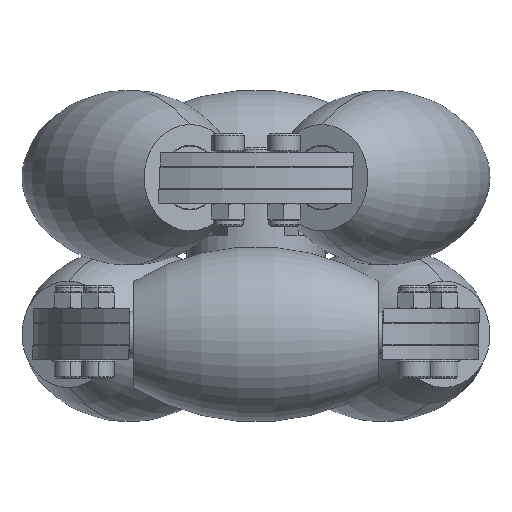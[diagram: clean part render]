
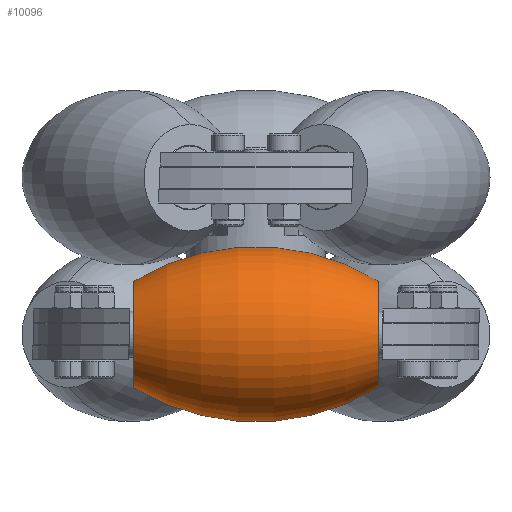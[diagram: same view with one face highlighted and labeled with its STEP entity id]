
A CAD part, front view. The second image highlights one B-rep face of the part: STEP entity #10096.
In plain terms, the highlighted toroidal (fillet/blend) face has major radius 31.8 mm and minor radius 50.8 mm.
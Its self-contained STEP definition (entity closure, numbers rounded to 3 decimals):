
#121 = CARTESIAN_POINT ( 'NONE',  ( 0., 31.8, 31.8 ) ) ;
#392 = EDGE_CURVE ( 'NONE', #1077, #3327, #11267, .T. ) ;
#723 = CARTESIAN_POINT ( 'NONE',  ( -26.5, 31.8, 0. ) ) ;
#753 = CARTESIAN_POINT ( 'NONE',  ( 26.5, 31.8, -11.54 ) ) ;
#768 = DIRECTION ( 'NONE',  ( 0., 0., 1. ) ) ;
#1077 = VERTEX_POINT ( 'NONE', #5080 ) ;
#1138 = VERTEX_POINT ( 'NONE', #10298 ) ;
#1663 = FACE_OUTER_BOUND ( 'NONE', #10145, .T. ) ;
#1835 = DIRECTION ( 'NONE',  ( -1., 0., 0. ) ) ;
#2138 = CIRCLE ( 'NONE', #10680, 11.54 ) ;
#2489 = AXIS2_PLACEMENT_3D ( 'NONE', #8834, #1835, #4534 ) ;
#2894 = DIRECTION ( 'NONE',  ( 0., 1., 0. ) ) ;
#3118 = EDGE_CURVE ( 'NONE', #9316, #1138, #6701, .T. ) ;
#3327 = VERTEX_POINT ( 'NONE', #6475 ) ;
#3622 = DIRECTION ( 'NONE',  ( 0., 0., -1. ) ) ;
#3773 = EDGE_CURVE ( 'NONE', #3327, #1138, #2138, .T. ) ;
#4080 = CARTESIAN_POINT ( 'NONE',  ( 26.5, 31.8, 0. ) ) ;
#4121 = DIRECTION ( 'NONE',  ( 0., 0., 1. ) ) ;
#4237 = CARTESIAN_POINT ( 'NONE',  ( 0., 31.8, -31.8 ) ) ;
#4534 = DIRECTION ( 'NONE',  ( 0., 0., 1. ) ) ;
#4783 = AXIS2_PLACEMENT_3D ( 'NONE', #4080, #10175, #4961 ) ;
#4961 = DIRECTION ( 'NONE',  ( 0., 0., 1. ) ) ;
#5022 = ORIENTED_EDGE ( 'NONE', *, *, #10754, .T. ) ;
#5080 = CARTESIAN_POINT ( 'NONE',  ( 26.5, 31.8, 11.54 ) ) ;
#5129 = ORIENTED_EDGE ( 'NONE', *, *, #3773, .F. ) ;
#5168 = ORIENTED_EDGE ( 'NONE', *, *, #392, .F. ) ;
#5222 = DIRECTION ( 'NONE',  ( 0., -1., 0. ) ) ;
#6054 = TOROIDAL_SURFACE ( 'NONE', #2489, -31.8, 50.8 ) ;
#6316 = CIRCLE ( 'NONE', #4783, 11.54 ) ;
#6475 = CARTESIAN_POINT ( 'NONE',  ( -26.5, 31.8, 11.54 ) ) ;
#6701 = CIRCLE ( 'NONE', #9553, 50.8 ) ;
#6826 = AXIS2_PLACEMENT_3D ( 'NONE', #4237, #5222, #3622 ) ;
#7628 = ORIENTED_EDGE ( 'NONE', *, *, #3118, .T. ) ;
#8834 = CARTESIAN_POINT ( 'NONE',  ( 0., 31.8, 0. ) ) ;
#9316 = VERTEX_POINT ( 'NONE', #753 ) ;
#9553 = AXIS2_PLACEMENT_3D ( 'NONE', #121, #2894, #768 ) ;
#10096 = ADVANCED_FACE ( 'NONE', ( #1663 ), #6054, .T. ) ;
#10145 = EDGE_LOOP ( 'NONE', ( #5022, #7628, #5129, #5168 ) ) ;
#10175 = DIRECTION ( 'NONE',  ( -1., 0., 0. ) ) ;
#10298 = CARTESIAN_POINT ( 'NONE',  ( -26.5, 31.8, -11.54 ) ) ;
#10472 = DIRECTION ( 'NONE',  ( -1., 0., 0. ) ) ;
#10680 = AXIS2_PLACEMENT_3D ( 'NONE', #723, #10472, #4121 ) ;
#10754 = EDGE_CURVE ( 'NONE', #1077, #9316, #6316, .T. ) ;
#11267 = CIRCLE ( 'NONE', #6826, 50.8 ) ;
